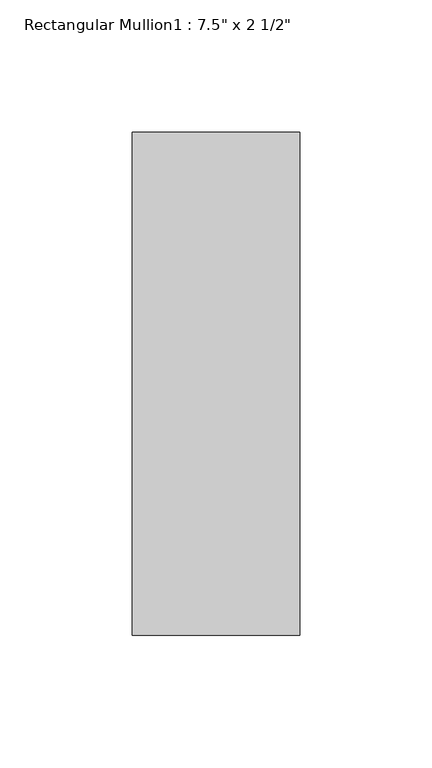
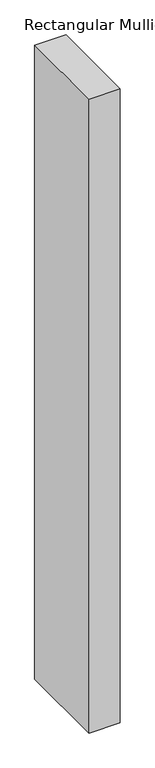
"""IFC4 building model written with IfcOpenShell, lengths in millimetres: member geometry."""

from ifc_helpers import new_model, si_unit, frame, origin, place, context, project, spatial, polyline, outline, extrude, source, transform, mapped, element, save


def member_36ba8f99(model_context):
    return source(origin(), model_context, "Body", "SweptSolid", [
        extrude(outline(polyline([(-63.5, -165.1), (-63.5, 25.4), (0.0, 25.4), (0.0, -165.1), (-63.5, -165.1)])), frame((0.0, 0.0, -1358.9), z_axis=(0.0, 0.0, 1.0), x_axis=(1.0, 0.0, 0.0)), (0.0, 0.0, 1.0), 1358.9),
    ])


if __name__ == "__main__":
    model = new_model("IFC4")
    model_context = context("Model", 3, world=origin())
    ifc_project = project(units=[si_unit("LENGTHUNIT", "METRE", prefix="MILLI")], contexts=[model_context])
    site = spatial("IfcSite", under=ifc_project)
    building = spatial("IfcBuilding", under=site)
    placement = place(None, origin())
    member_shape = member_36ba8f99(model_context)
    element("IfcMember", 1, ObjectType="Rectangular Mullion1 : 7.5\" x 2 1/2\"", at=placement, inside=building, context=model_context, shape_type="MappedRepresentation", body=[
        mapped(member_shape, transform((0.0, 0.0, 0.0), x_axis=(1.0, 0.0, 0.0), y_axis=(0.0, 1.0, 0.0), z_axis=(0.0, 0.0, 1.0))),
    ])
    save(model, "model.ifc")
